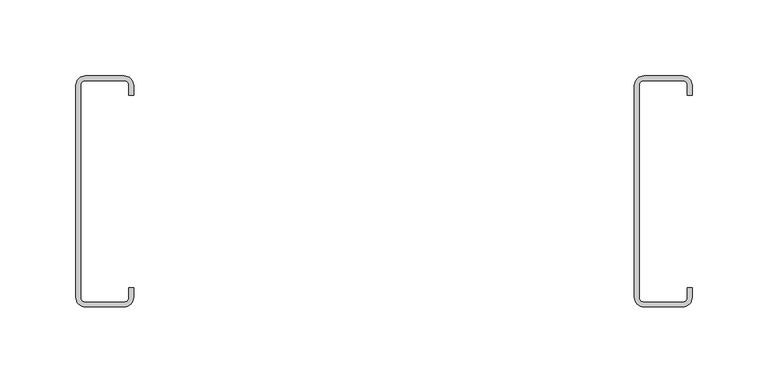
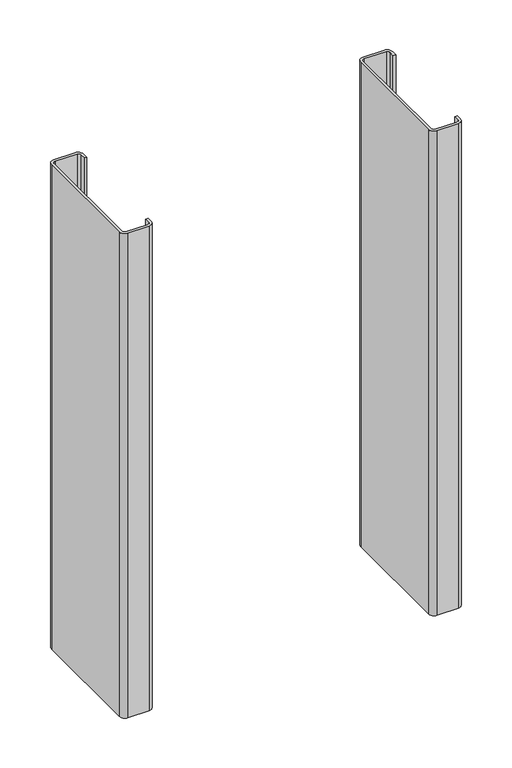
"""IFC4 building model written with IfcOpenShell, lengths in millimetres: proxy geometry, CRAi Generic Model Metal Stud Array : CRAi Generic Model Metal Stud Array."""

from ifc_helpers import new_model, si_unit, point, frame_2d, origin, origin_with_axes, place, context, project, spatial, polyline, circle_curve, trimmed, segment, composite_curve, outline, extrude, source, transform, mapped, element, save


def generic_models_599f1aef(model_context):
    return source(origin(), model_context, "Body", "SweptSolid", [
        extrude(outline(composite_curve([segment(polyline([(203.2, -63.5), (203.2, -69.85)]), True, "CONTINUOUS"), segment(trimmed(circle_curve(frame_2d((196.85, -69.85)), 6.35), [point((203.2, -69.85))], [point((196.85, -76.2))], False, "CARTESIAN"), True, "CONTINUOUS"), segment(polyline([(196.85, -76.2), (171.45, -76.2)]), True, "CONTINUOUS"), segment(trimmed(circle_curve(frame_2d((171.45, -69.85)), 6.35), [point((171.45, -76.2))], [point((165.1, -69.85))], False, "CARTESIAN"), True, "CONTINUOUS"), segment(polyline([(165.1, -69.85), (165.1, 69.85)]), True, "CONTINUOUS"), segment(trimmed(circle_curve(frame_2d((171.45, 69.85)), 6.35), [point((165.1, 69.85))], [point((171.45, 76.2))], False, "CARTESIAN"), True, "CONTINUOUS"), segment(polyline([(171.45, 76.2), (196.85, 76.2)]), True, "CONTINUOUS"), segment(trimmed(circle_curve(frame_2d((196.85, 69.85)), 6.35), [point((196.85, 76.2))], [point((203.2, 69.85))], False, "CARTESIAN"), True, "CONTINUOUS"), segment(polyline([(203.2, 69.85), (203.2, 63.5), (200.025, 63.5), (200.025, 70.2679713)]), True, "CONTINUOUS"), segment(trimmed(circle_curve(frame_2d((196.85, 69.85)), 3.2023936), [point((200.025, 70.2679713))], [point((197.2679713, 73.025))], True, "CARTESIAN"), True, "CONTINUOUS"), segment(polyline([(197.2679713, 73.025), (171.0320287, 73.025)]), True, "CONTINUOUS"), segment(trimmed(circle_curve(frame_2d((171.45, 69.85)), 3.2023936), [point((171.0320287, 73.025))], [point((168.275, 70.2679713))], True, "CARTESIAN"), True, "CONTINUOUS"), segment(polyline([(168.275, 70.2679713), (168.275, -70.2679713)]), True, "CONTINUOUS"), segment(trimmed(circle_curve(frame_2d((171.45, -69.85)), 3.2023936), [point((168.275, -70.2679713))], [point((171.0320287, -73.025))], True, "CARTESIAN"), True, "CONTINUOUS"), segment(polyline([(171.0320287, -73.025), (197.2679713, -73.025)]), True, "CONTINUOUS"), segment(trimmed(circle_curve(frame_2d((196.85, -69.85)), 3.2023936), [point((197.2679713, -73.025))], [point((200.025, -70.2679713))], True, "CARTESIAN"), True, "CONTINUOUS"), segment(polyline([(200.025, -70.2679713), (200.025, -63.5), (203.2, -63.5)]), True, "CONTINUOUS")], self_intersect=False)), origin_with_axes(), (0.0, 0.0, 1.0), 609.6),
        extrude(outline(composite_curve([segment(polyline([(-165.1, -63.5), (-165.1, -69.85)]), True, "CONTINUOUS"), segment(trimmed(circle_curve(frame_2d((-171.45, -69.85)), 6.35), [point((-165.1, -69.85))], [point((-171.45, -76.2))], False, "CARTESIAN"), True, "CONTINUOUS"), segment(polyline([(-171.45, -76.2), (-196.85, -76.2)]), True, "CONTINUOUS"), segment(trimmed(circle_curve(frame_2d((-196.85, -69.85)), 6.35), [point((-196.85, -76.2))], [point((-203.2, -69.85))], False, "CARTESIAN"), True, "CONTINUOUS"), segment(polyline([(-203.2, -69.85), (-203.2, 69.85)]), True, "CONTINUOUS"), segment(trimmed(circle_curve(frame_2d((-196.85, 69.85)), 6.35), [point((-203.2, 69.85))], [point((-196.85, 76.2))], False, "CARTESIAN"), True, "CONTINUOUS"), segment(polyline([(-196.85, 76.2), (-171.45, 76.2)]), True, "CONTINUOUS"), segment(trimmed(circle_curve(frame_2d((-171.45, 69.85)), 6.35), [point((-171.45, 76.2))], [point((-165.1, 69.85))], False, "CARTESIAN"), True, "CONTINUOUS"), segment(polyline([(-165.1, 69.85), (-165.1, 63.5), (-168.275, 63.5), (-168.275, 70.2679713)]), True, "CONTINUOUS"), segment(trimmed(circle_curve(frame_2d((-171.45, 69.85)), 3.2023936), [point((-168.275, 70.2679713))], [point((-171.0320287, 73.025))], True, "CARTESIAN"), True, "CONTINUOUS"), segment(polyline([(-171.0320287, 73.025), (-197.2679713, 73.025)]), True, "CONTINUOUS"), segment(trimmed(circle_curve(frame_2d((-196.85, 69.85)), 3.2023936), [point((-197.2679713, 73.025))], [point((-200.025, 70.2679713))], True, "CARTESIAN"), True, "CONTINUOUS"), segment(polyline([(-200.025, 70.2679713), (-200.025, -70.2679713)]), True, "CONTINUOUS"), segment(trimmed(circle_curve(frame_2d((-196.85, -69.85)), 3.2023936), [point((-200.025, -70.2679713))], [point((-197.2679713, -73.025))], True, "CARTESIAN"), True, "CONTINUOUS"), segment(polyline([(-197.2679713, -73.025), (-171.0320287, -73.025)]), True, "CONTINUOUS"), segment(trimmed(circle_curve(frame_2d((-171.45, -69.85)), 3.2023936), [point((-171.0320287, -73.025))], [point((-168.275, -70.2679713))], True, "CARTESIAN"), True, "CONTINUOUS"), segment(polyline([(-168.275, -70.2679713), (-168.275, -63.5), (-165.1, -63.5)]), True, "CONTINUOUS")], self_intersect=False)), origin_with_axes(), (0.0, 0.0, 1.0), 609.6),
    ])


if __name__ == "__main__":
    model = new_model("IFC4")
    model_context = context("Model", 3, world=origin())
    ifc_project = project(units=[si_unit("LENGTHUNIT", "METRE", prefix="MILLI")], contexts=[model_context])
    site = spatial("IfcSite", under=ifc_project)
    building = spatial("IfcBuilding", under=site)
    placement = place(None, origin())
    generic_models_shape = generic_models_599f1aef(model_context)
    element("IfcBuildingElementProxy", 1, Name="CRAi Generic Model Metal Stud Array : CRAi Generic Model Metal Stud Array", ObjectType="CRAi Generic Model Metal Stud Array : CRAi Generic Model Metal Stud Array", at=placement, inside=building, context=model_context, shape_type="MappedRepresentation", body=[
        mapped(generic_models_shape, transform((0.0, 0.0, 0.0), x_axis=(1.0, 0.0, 0.0), y_axis=(0.0, 1.0, 0.0), z_axis=(0.0, 0.0, 1.0))),
    ])
    save(model, "model.ifc")
